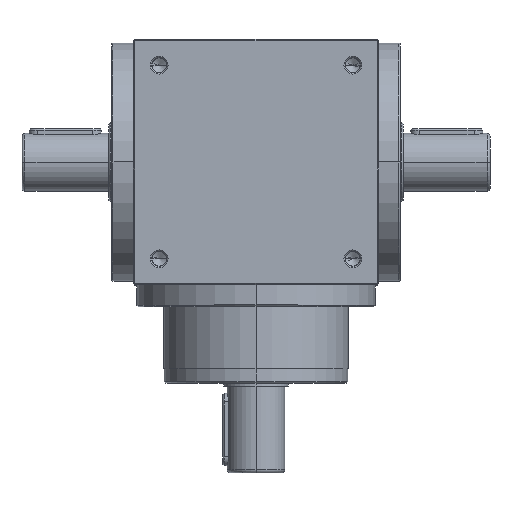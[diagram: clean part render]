
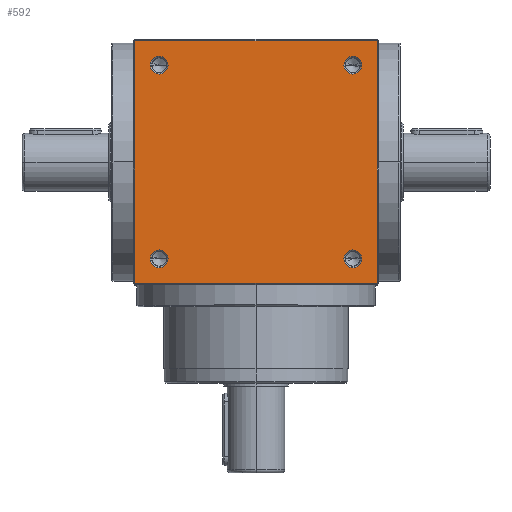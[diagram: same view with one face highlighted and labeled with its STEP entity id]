
A CAD part, top view. The second image highlights one B-rep face of the part: STEP entity #592.
In plain terms, the highlighted planar face has unit normal (0, 0, 1).
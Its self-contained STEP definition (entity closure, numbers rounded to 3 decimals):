
#24 = FACE_BOUND ( 'NONE', #8359, .T. ) ;
#46 = LINE ( 'NONE', #8515, #7975 ) ;
#126 = DIRECTION ( 'NONE',  ( 0., 0., -1. ) ) ;
#162 = EDGE_CURVE ( 'NONE', #5582, #414, #6055, .T. ) ;
#213 = ORIENTED_EDGE ( 'NONE', *, *, #5077, .T. ) ;
#323 = AXIS2_PLACEMENT_3D ( 'NONE', #1089, #3526, #8365 ) ;
#357 = VERTEX_POINT ( 'NONE', #9474 ) ;
#414 = VERTEX_POINT ( 'NONE', #5495 ) ;
#420 = VERTEX_POINT ( 'NONE', #579 ) ;
#490 = CARTESIAN_POINT ( 'NONE',  ( 67., 67., 85. ) ) ;
#579 = CARTESIAN_POINT ( 'NONE',  ( -84., 84., 85. ) ) ;
#592 = ADVANCED_FACE ( 'NONE', ( #6556, #4399, #2210, #24, #4133 ), #4241, .F. ) ;
#636 = EDGE_CURVE ( 'NONE', #3525, #9611, #6415, .T. ) ;
#654 = AXIS2_PLACEMENT_3D ( 'NONE', #8963, #8935, #5005 ) ;
#843 = ORIENTED_EDGE ( 'NONE', *, *, #9212, .T. ) ;
#876 = ORIENTED_EDGE ( 'NONE', *, *, #3307, .T. ) ;
#957 = DIRECTION ( 'NONE',  ( 0., 0., -1. ) ) ;
#1080 = EDGE_LOOP ( 'NONE', ( #6765, #8551 ) ) ;
#1089 = CARTESIAN_POINT ( 'NONE',  ( 0., 0., 85. ) ) ;
#1113 = VERTEX_POINT ( 'NONE', #2434 ) ;
#1302 = CARTESIAN_POINT ( 'NONE',  ( 84., 0., 85. ) ) ;
#1332 = VERTEX_POINT ( 'NONE', #6935 ) ;
#1845 = AXIS2_PLACEMENT_3D ( 'NONE', #5872, #8301, #6701 ) ;
#1986 = EDGE_CURVE ( 'NONE', #420, #6229, #6143, .T. ) ;
#2210 = FACE_BOUND ( 'NONE', #1080, .T. ) ;
#2414 = CARTESIAN_POINT ( 'NONE',  ( 84., 84., 85. ) ) ;
#2434 = CARTESIAN_POINT ( 'NONE',  ( 84., -84., 85. ) ) ;
#2439 = EDGE_CURVE ( 'NONE', #357, #6212, #4739, .T. ) ;
#2722 = DIRECTION ( 'NONE',  ( 0., 0., -1. ) ) ;
#2777 = VECTOR ( 'NONE', #3076, 1000. ) ;
#2793 = CARTESIAN_POINT ( 'NONE',  ( -67., 67., 85. ) ) ;
#2904 = DIRECTION ( 'NONE',  ( 1., 0., 0. ) ) ;
#3015 = ORIENTED_EDGE ( 'NONE', *, *, #4367, .T. ) ;
#3076 = DIRECTION ( 'NONE',  ( 0., 1., 0. ) ) ;
#3274 = EDGE_LOOP ( 'NONE', ( #6799, #3015 ) ) ;
#3307 = EDGE_CURVE ( 'NONE', #9611, #3525, #5045, .T. ) ;
#3329 = AXIS2_PLACEMENT_3D ( 'NONE', #2793, #2722, #5316 ) ;
#3349 = DIRECTION ( 'NONE',  ( -1., 0., 0. ) ) ;
#3525 = VERTEX_POINT ( 'NONE', #4695 ) ;
#3526 = DIRECTION ( 'NONE',  ( 0., 0., -1. ) ) ;
#3696 = CIRCLE ( 'NONE', #10442, 6.1 ) ;
#3753 = LINE ( 'NONE', #7999, #8841 ) ;
#4028 = EDGE_LOOP ( 'NONE', ( #4820, #7647 ) ) ;
#4133 = FACE_OUTER_BOUND ( 'NONE', #4702, .T. ) ;
#4214 = CARTESIAN_POINT ( 'NONE',  ( 67., -67., 85. ) ) ;
#4241 = PLANE ( 'NONE',  #323 ) ;
#4367 = EDGE_CURVE ( 'NONE', #414, #5582, #6523, .T. ) ;
#4399 = FACE_BOUND ( 'NONE', #4028, .T. ) ;
#4595 = CARTESIAN_POINT ( 'NONE',  ( 67., 67., 85. ) ) ;
#4662 = DIRECTION ( 'NONE',  ( -1., 0., 0. ) ) ;
#4695 = CARTESIAN_POINT ( 'NONE',  ( -73.1, 67., 85. ) ) ;
#4702 = EDGE_LOOP ( 'NONE', ( #8255, #843, #213, #9234 ) ) ;
#4739 = CIRCLE ( 'NONE', #8577, 6.1 ) ;
#4788 = EDGE_CURVE ( 'NONE', #1332, #5464, #3696, .T. ) ;
#4789 = DIRECTION ( 'NONE',  ( 0., -1., 0. ) ) ;
#4808 = CARTESIAN_POINT ( 'NONE',  ( 73.1, -67., 85. ) ) ;
#4820 = ORIENTED_EDGE ( 'NONE', *, *, #6818, .T. ) ;
#4952 = CIRCLE ( 'NONE', #6177, 6.1 ) ;
#5005 = DIRECTION ( 'NONE',  ( -1., 0., 0. ) ) ;
#5045 = CIRCLE ( 'NONE', #3329, 6.1 ) ;
#5077 = EDGE_CURVE ( 'NONE', #1113, #8859, #9662, .T. ) ;
#5316 = DIRECTION ( 'NONE',  ( -1., 0., 0. ) ) ;
#5404 = DIRECTION ( 'NONE',  ( -1., 0., 0. ) ) ;
#5464 = VERTEX_POINT ( 'NONE', #5942 ) ;
#5495 = CARTESIAN_POINT ( 'NONE',  ( 60.9, -67., 85. ) ) ;
#5582 = VERTEX_POINT ( 'NONE', #4808 ) ;
#5872 = CARTESIAN_POINT ( 'NONE',  ( -67., 67., 85. ) ) ;
#5942 = CARTESIAN_POINT ( 'NONE',  ( -60.9, -67., 85. ) ) ;
#5954 = CARTESIAN_POINT ( 'NONE',  ( 60.9, 67., 85. ) ) ;
#6055 = CIRCLE ( 'NONE', #7181, 6.1 ) ;
#6067 = DIRECTION ( 'NONE',  ( -1., 0., 0. ) ) ;
#6143 = LINE ( 'NONE', #8864, #6792 ) ;
#6177 = AXIS2_PLACEMENT_3D ( 'NONE', #7653, #7752, #6067 ) ;
#6212 = VERTEX_POINT ( 'NONE', #5954 ) ;
#6229 = VERTEX_POINT ( 'NONE', #6673 ) ;
#6259 = ORIENTED_EDGE ( 'NONE', *, *, #636, .T. ) ;
#6415 = CIRCLE ( 'NONE', #1845, 6.1 ) ;
#6523 = CIRCLE ( 'NONE', #654, 6.1 ) ;
#6556 = FACE_BOUND ( 'NONE', #3274, .T. ) ;
#6673 = CARTESIAN_POINT ( 'NONE',  ( -84., -84., 85. ) ) ;
#6701 = DIRECTION ( 'NONE',  ( -1., 0., 0. ) ) ;
#6765 = ORIENTED_EDGE ( 'NONE', *, *, #2439, .T. ) ;
#6792 = VECTOR ( 'NONE', #4789, 1000. ) ;
#6799 = ORIENTED_EDGE ( 'NONE', *, *, #162, .T. ) ;
#6818 = EDGE_CURVE ( 'NONE', #5464, #1332, #4952, .T. ) ;
#6935 = CARTESIAN_POINT ( 'NONE',  ( -73.1, -67., 85. ) ) ;
#7181 = AXIS2_PLACEMENT_3D ( 'NONE', #4214, #126, #3349 ) ;
#7324 = DIRECTION ( 'NONE',  ( -1., 0., 0. ) ) ;
#7383 = EDGE_CURVE ( 'NONE', #6212, #357, #9044, .T. ) ;
#7647 = ORIENTED_EDGE ( 'NONE', *, *, #4788, .T. ) ;
#7653 = CARTESIAN_POINT ( 'NONE',  ( -67., -67., 85. ) ) ;
#7752 = DIRECTION ( 'NONE',  ( 0., 0., -1. ) ) ;
#7975 = VECTOR ( 'NONE', #2904, 1000. ) ;
#7999 = CARTESIAN_POINT ( 'NONE',  ( 0., 84., 85. ) ) ;
#8255 = ORIENTED_EDGE ( 'NONE', *, *, #1986, .T. ) ;
#8301 = DIRECTION ( 'NONE',  ( 0., 0., -1. ) ) ;
#8359 = EDGE_LOOP ( 'NONE', ( #876, #6259 ) ) ;
#8365 = DIRECTION ( 'NONE',  ( -1., 0., 0. ) ) ;
#8504 = CARTESIAN_POINT ( 'NONE',  ( -60.9, 67., 85. ) ) ;
#8515 = CARTESIAN_POINT ( 'NONE',  ( 0., -84., 85. ) ) ;
#8551 = ORIENTED_EDGE ( 'NONE', *, *, #7383, .T. ) ;
#8577 = AXIS2_PLACEMENT_3D ( 'NONE', #490, #8704, #10346 ) ;
#8704 = DIRECTION ( 'NONE',  ( 0., 0., -1. ) ) ;
#8841 = VECTOR ( 'NONE', #4662, 1000. ) ;
#8859 = VERTEX_POINT ( 'NONE', #2414 ) ;
#8864 = CARTESIAN_POINT ( 'NONE',  ( -84., 0., 85. ) ) ;
#8935 = DIRECTION ( 'NONE',  ( 0., 0., -1. ) ) ;
#8963 = CARTESIAN_POINT ( 'NONE',  ( 67., -67., 85. ) ) ;
#9012 = CARTESIAN_POINT ( 'NONE',  ( -67., -67., 85. ) ) ;
#9044 = CIRCLE ( 'NONE', #10065, 6.1 ) ;
#9212 = EDGE_CURVE ( 'NONE', #6229, #1113, #46, .T. ) ;
#9234 = ORIENTED_EDGE ( 'NONE', *, *, #9692, .T. ) ;
#9474 = CARTESIAN_POINT ( 'NONE',  ( 73.1, 67., 85. ) ) ;
#9611 = VERTEX_POINT ( 'NONE', #8504 ) ;
#9662 = LINE ( 'NONE', #1302, #2777 ) ;
#9692 = EDGE_CURVE ( 'NONE', #8859, #420, #3753, .T. ) ;
#10065 = AXIS2_PLACEMENT_3D ( 'NONE', #4595, #10264, #5404 ) ;
#10264 = DIRECTION ( 'NONE',  ( 0., 0., -1. ) ) ;
#10346 = DIRECTION ( 'NONE',  ( -1., 0., 0. ) ) ;
#10442 = AXIS2_PLACEMENT_3D ( 'NONE', #9012, #957, #7324 ) ;
